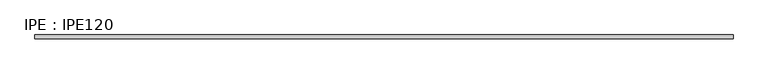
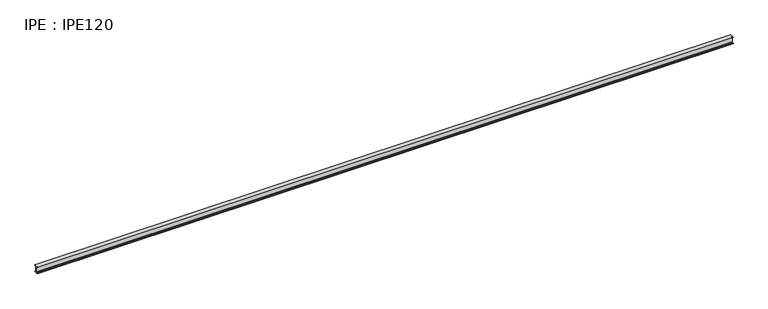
"""IFC4 building model written with IfcOpenShell, lengths in millimetres: beam geometry, IPE : IPE120."""

from ifc_helpers import new_model, si_unit, point, frame, frame_2d, origin, place, context, project, spatial, polyline, circle_curve, trimmed, segment, composite_curve, outline, extrude, source, transform, mapped, element, save


def ipe_ipe120_91d9e594(model_context):
    return source(origin(), model_context, "Body", "SweptSolid", [
        extrude(outline(composite_curve([segment(polyline([(32.0, -53.7), (32.0, -60.0), (-32.0, -60.0), (-32.0, -53.7), (-9.2, -53.7)]), True, "CONTINUOUS"), segment(trimmed(circle_curve(frame_2d((-9.2, -46.7)), 7.0), [point((-9.2, -53.7))], [point((-2.2, -46.7))], True, "CARTESIAN"), True, "CONTINUOUS"), segment(polyline([(-2.2, -46.7), (-2.2, 46.7)]), True, "CONTINUOUS"), segment(trimmed(circle_curve(frame_2d((-9.2, 46.7)), 7.0), [point((-2.2, 46.7))], [point((-9.2, 53.7))], True, "CARTESIAN"), True, "CONTINUOUS"), segment(polyline([(-9.2, 53.7), (-32.0, 53.7), (-32.0, 60.0), (32.0, 60.0), (32.0, 53.7), (9.2, 53.7)]), True, "CONTINUOUS"), segment(trimmed(circle_curve(frame_2d((9.2, 46.7)), 7.0), [point((9.2, 53.7))], [point((2.2, 46.7))], True, "CARTESIAN"), True, "CONTINUOUS"), segment(polyline([(2.2, 46.7), (2.2, -46.7)]), True, "CONTINUOUS"), segment(trimmed(circle_curve(frame_2d((9.2, -46.7)), 7.0), [point((2.2, -46.7))], [point((9.2, -53.7))], True, "CARTESIAN"), True, "CONTINUOUS"), segment(polyline([(9.2, -53.7), (32.0, -53.7)]), True, "CONTINUOUS")], self_intersect=False)), frame((-6000.0, 0.0, 0.0), z_axis=(1.0, 0.0, 0.0), x_axis=(0.0, 1.0, 0.0)), (0.0, 0.0, 1.0), 12000.0),
    ])


if __name__ == "__main__":
    model = new_model("IFC4")
    model_context = context("Model", 3, world=origin())
    ifc_project = project(units=[si_unit("LENGTHUNIT", "METRE", prefix="MILLI")], contexts=[model_context])
    site = spatial("IfcSite", under=ifc_project)
    building = spatial("IfcBuilding", under=site)
    placement = place(None, origin())
    ipe_ipe120_shape = ipe_ipe120_91d9e594(model_context)
    element("IfcBeam", 1, ObjectType="IPE : IPE120", at=placement, inside=building, context=model_context, shape_type="MappedRepresentation", body=[
        mapped(ipe_ipe120_shape, transform((0.0, 0.0, 0.0), x_axis=(1.0, 0.0, 0.0), y_axis=(0.0, 1.0, 0.0), z_axis=(0.0, 0.0, 1.0))),
    ])
    save(model, "model.ifc")
